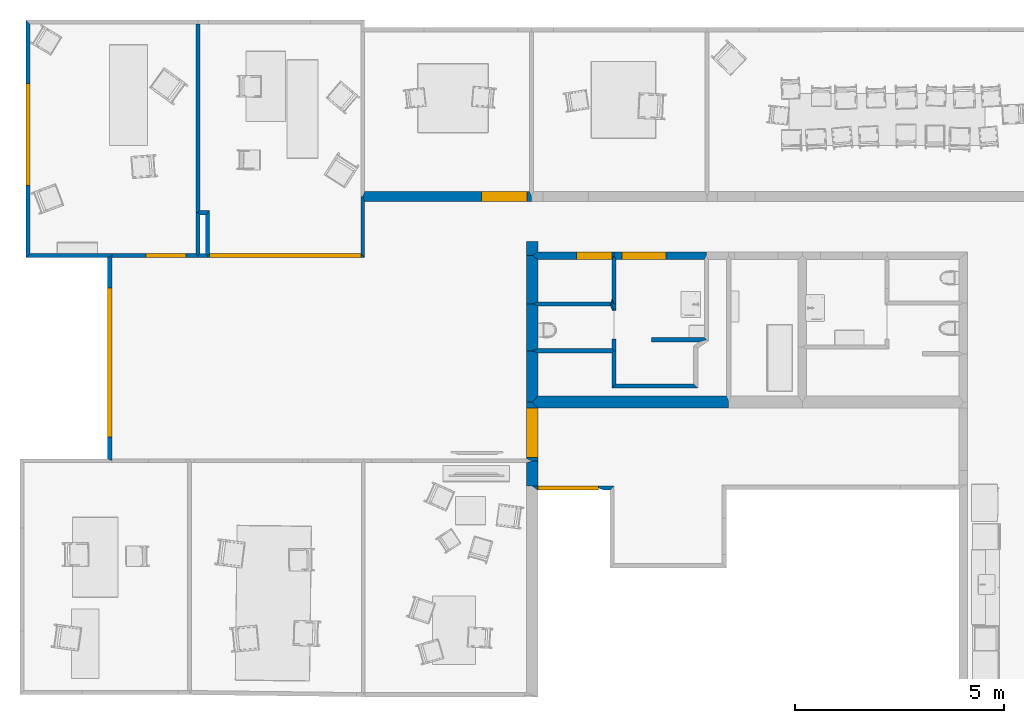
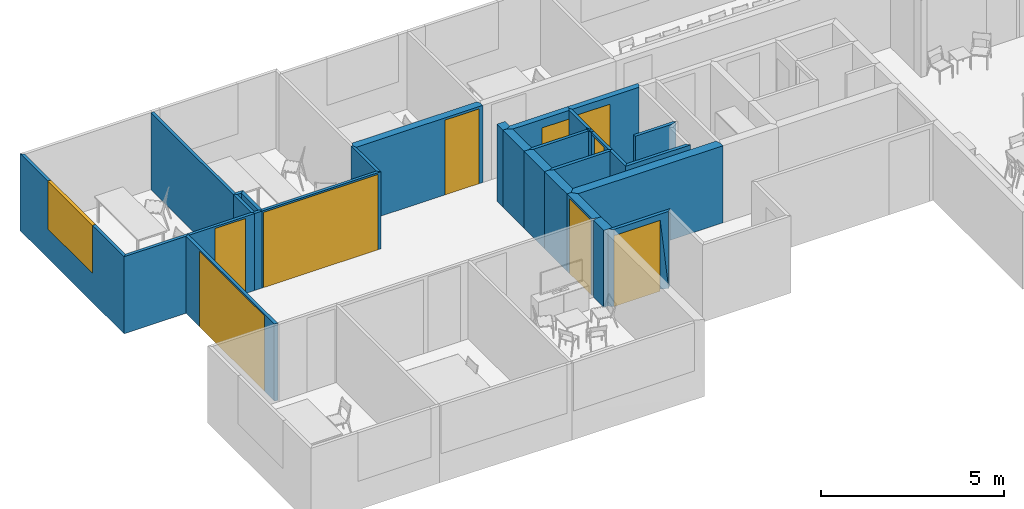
# One storey, part 2 of 25: 31 walls, 8 doors, 1 window, 10 openings.
"""IFC2X3 building model written with IfcOpenShell, lengths in metres."""

from ifc_helpers import new_model, si_unit, direction, frame, origin_with_axes, place, context, subcontext, project, spatial, polyline, outline, extrude, type_object, element, fill, save


model = new_model("IFC2X3")

# Units and contexts
model_context = context("Model", 3, precision=1e-05, world=origin_with_axes(), true_north=direction((0.996, -0.093, 0.0)))
body_context = subcontext(model_context, "Body", "Model", "MODEL_VIEW")
ifc_project = project(units=[si_unit("LENGTHUNIT", "METRE"), si_unit("AREAUNIT", "SQUARE_METRE")], contexts=[model_context])

# Site, building, storey
site_placement = place(None, origin_with_axes())
site = spatial("IfcSite", under=ifc_project, at=site_placement, Name="Site", CompositionType="ELEMENT")
building_placement = place(site_placement, origin_with_axes())
building = spatial("IfcBuilding", under=site, at=building_placement, Name="Building", CompositionType="ELEMENT")
storey_placement = place(building_placement, frame((0.0, 0.0, 0.0500001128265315), z_axis=(0.0, 0.0, 1.0), x_axis=(1.0, 0.0, 0.0)))
storey = spatial("IfcBuildingStorey", under=building, at=storey_placement, Name="Story 0", CompositionType="ELEMENT", Elevation=0.0499999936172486)

# Wall, opening, door
wall_type_1 = type_object("IfcWallType", PredefinedType="STANDARD")
wall_1_placement = place(storey_placement, frame((6.05727693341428, 7.0292834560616, 0.0), z_axis=(0.0, 0.0, 1.0), x_axis=(1.0, 0.0, 0.0)))
wall_1 = element("IfcWallStandardCase", 1, at=wall_1_placement, inside=storey, type_object=wall_type_1, Name="Wall", context=body_context, shape_type="SweptSolid", body=[
    extrude(outline(polyline([(0.0, 0.0), (-0.0463823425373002, 0.114025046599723), (-1.22583095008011e-05, 0.228050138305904), (3.94889842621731, 0.228052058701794), (3.99528078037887, 0.11402701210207), (3.99528083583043, 1.94294616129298e-06), (0.0, 0.0)])), origin_with_axes(), (0.0, 0.0, 1.0), 2.5729394),
])
opening_1_placement = place(wall_1_placement, frame((2.79951417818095, 0.0, 0.0), z_axis=(0.0, 0.0, 1.0), x_axis=(1.00000000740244, 0.0, 0.0)))
opening_1 = element("IfcOpeningElement", 2, at=opening_1_placement, cuts=wall_1, Name="OpeningElement", ObjectType="OPENING", context=body_context, shape_type="SweptSolid", body=[
    extrude(outline(polyline([(0.0, 0.0), (1.08285570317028, 0.0), (1.08285570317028, 2.49675690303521), (0.0, 2.49675690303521), (0.0, 0.0)])), frame((0.0, 0.0, 0.0), z_axis=(0.0, -1.0, 0.0), x_axis=(1.0, 0.0, 0.0)), (0.0, 0.0, -1.0), 0.228150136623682),
])
door_style_1 = type_object("IfcDoorStyle", Name="194cbcb8-2a0d-4996-9679-104e252f2d6b", ConstructionType="NOTDEFINED", OperationType="NOTDEFINED", ParameterTakesPrecedence=False, Sizeable=False)
door_1_placement = place(opening_1_placement, origin_with_axes())
door_1 = element("IfcDoor", 3, at=door_1_placement, inside=storey, type_object=door_style_1, Name="Door", OverallHeight=2.49675694, OverallWidth=1.0828566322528, context=body_context, shape_type="SweptSolid", body=[
    extrude(outline(polyline([(-1.77635683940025e-15, 0.0), (-1.08285564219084, 0.0), (-1.08285564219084, 2.49675694), (-1.77635683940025e-15, 2.49675694), (-1.77635683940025e-15, 0.0)])), frame((0.0, 0.228050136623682, 0.0), z_axis=(0.0, 1.0, 0.0), x_axis=(-1.0, 0.0, 0.0)), (0.0, 0.0, -1.0), 0.228050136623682),
])
fill(opening_1, door_1)

wall_type_2 = type_object("IfcWallType", PredefinedType="STANDARD")
wall_2_placement = place(storey_placement, frame((10.2028890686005, 5.6405609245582, 0.0), z_axis=(0.0, 0.0, 1.0), x_axis=(1.0, 0.0, 0.0)))
wall_2 = element("IfcWallStandardCase", 4, at=wall_2_placement, inside=storey, type_object=wall_type_2, Name="Wall", context=body_context, shape_type="SweptSolid", body=[
    extrude(outline(polyline([(0.0, 0.0), (-0.133709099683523, 0.0883233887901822), (-1.25883463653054e-08, 0.176646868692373), (1.82463396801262, 0.176647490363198), (1.82463399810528, 0.0883240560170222), (1.77825168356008, 6.0586792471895e-07), (0.0, 0.0)])), origin_with_axes(), (0.0, 0.0, 1.0), 2.5729394),
])
opening_2_placement = place(wall_2_placement, frame((1.77825162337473, 0.176647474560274, 0.0), z_axis=(0.0, 0.0, 1.0), x_axis=(-1.0000000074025, 0.0, 0.0)))
opening_2 = element("IfcOpeningElement", 5, at=opening_2_placement, cuts=wall_2, Name="OpeningElement", ObjectType="OPENING", context=body_context, shape_type="SweptSolid", body=[
    extrude(outline(polyline([(0.0, 0.0), (0.856390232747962, 0.0), (0.856390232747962, 2.28598296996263), (0.0, 2.28598296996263), (0.0, 0.0)])), frame((0.0, 0.0, 0.0), z_axis=(0.0, -1.0, 0.0), x_axis=(1.0, 0.0, 0.0)), (0.0, 0.0, -1.0), 0.176746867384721),
])
door_style_2 = type_object("IfcDoorStyle", Name="e3c5b70f-ecda-42f5-a927-86ac6ca27e60", ConstructionType="NOTDEFINED", OperationType="NOTDEFINED", ParameterTakesPrecedence=False, Sizeable=False)
door_2_placement = place(opening_2_placement, origin_with_axes())
door_2 = element("IfcDoor", 6, at=door_2_placement, inside=storey, type_object=door_style_2, Name="Door", OverallHeight=2.28598364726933, OverallWidth=0.902772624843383, context=body_context, shape_type="SweptSolid", body=[
    extrude(outline(polyline([(0.0, 0.0), (-0.856390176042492, 0.0), (-0.856390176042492, 2.28598300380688), (0.0, 2.28598300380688), (0.0, 0.0)])), frame((0.0, 0.176646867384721, 0.0), z_axis=(0.0, 1.0, 0.0), x_axis=(-1.0, 0.0, 0.0)), (0.0, 0.0, -1.0), 0.176646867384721),
])
fill(opening_2, door_2)

# Wall
wall_type_3 = type_object("IfcWallType", PredefinedType="STANDARD")
wall_3_placement = place(storey_placement, frame((9.93547154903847, 2.22077847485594, 0.0), z_axis=(0.0, 0.0, 1.0), x_axis=(1.0, 0.0, 0.0)))
element("IfcWallStandardCase", 7, at=wall_3_placement, inside=storey, type_object=wall_type_3, Name="Wall", context=body_context, shape_type="SweptSolid", body=[
    extrude(outline(polyline([(0.0, 0.0), (2.24664894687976e-07, 1.22817826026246), (0.133709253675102, 1.2281782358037), (0.267418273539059, 1.17817827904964), (0.267418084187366, 0.143047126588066), (0.133709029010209, -2.44587661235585e-08), (0.0, 0.0)])), origin_with_axes(), (0.0, 0.0, 1.0), 2.5729394),
])

# Wall, opening, door
wall_type_4 = type_object("IfcWallType", PredefinedType="STANDARD")
wall_4_placement = place(storey_placement, frame((9.93547231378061, 0.86197663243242, 0.0), z_axis=(0.0, 0.0, 1.0), x_axis=(1.0, 0.0, 0.0)))
wall_4 = element("IfcWallStandardCase", 8, at=wall_4_placement, inside=storey, type_object=wall_type_4, Name="Wall", context=body_context, shape_type="SweptSolid", body=[
    extrude(outline(polyline([(0.0, 0.0), (-7.64742114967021e-07, 1.35880174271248), (0.133708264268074, 1.35880181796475), (0.267417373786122, 1.21575469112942), (0.267418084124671, -0.0463822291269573), (0.13370905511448, -0.0463823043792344), (0.0, 0.0)])), origin_with_axes(), (0.0, 0.0, 1.0), 2.5729394),
])
opening_3_placement = place(wall_4_placement, frame((0.0, 1.21575454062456, 0.0), z_axis=(0.0, 0.0, 1.0), x_axis=(0.0, -1.0000000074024, 0.0)))
opening_3 = element("IfcOpeningElement", 9, at=opening_3_placement, cuts=wall_4, Name="OpeningElement", ObjectType="OPENING", context=body_context, shape_type="SweptSolid", body=[
    extrude(outline(polyline([(8.47388701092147e-17, 0.0), (1.17969466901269, 0.0), (1.17969466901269, 2.4905647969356), (8.47388701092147e-17, 2.4905647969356), (8.47388701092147e-17, 0.0)])), frame((0.0, 0.0, 0.0), z_axis=(0.0, -1.0, 0.0), x_axis=(1.0, 0.0, 0.0)), (0.0, 0.0, -1.0), 0.267518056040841),
])
door_style_3 = type_object("IfcDoorStyle", Name="84b4e0b7-d945-4fbe-b5bd-07ea1a3345e8", ConstructionType="NOTDEFINED", OperationType="NOTDEFINED", ParameterTakesPrecedence=False, Sizeable=False)
door_3_placement = place(opening_3_placement, origin_with_axes())
door_3 = element("IfcDoor", 10, at=door_3_placement, inside=storey, type_object=door_style_3, Name="Door", OverallHeight=2.49056467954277, OverallWidth=1.32274191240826, context=body_context, shape_type="SweptSolid", body=[
    extrude(outline(polyline([(1.05133729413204e-17, 0.0), (-1.17969470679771, 0.0), (-1.17969470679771, 2.49056483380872), (1.05133729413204e-17, 2.49056483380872), (1.05133729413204e-17, 0.0)])), frame((0.0, 0.267418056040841, 0.0), z_axis=(0.0, 1.0, 0.0), x_axis=(-1.0, 0.0, 0.0)), (0.0, 0.0, -1.0), 0.267418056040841),
])
fill(opening_3, door_3)

wall_type_5 = type_object("IfcWallType", PredefinedType="STANDARD")
wall_5_placement = place(storey_placement, frame((2.29671740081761, 5.6825010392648, 0.0), z_axis=(0.0, 0.0, 1.0), x_axis=(1.0, 0.0, 0.0)))
wall_5 = element("IfcWallStandardCase", 11, at=wall_5_placement, inside=storey, type_object=wall_type_5, Name="Wall", context=body_context, shape_type="SweptSolid", body=[
    extrude(outline(polyline([(0.0, 0.0), (-7.37930339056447e-09, 0.0463823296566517), (0.0499999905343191, 0.0927646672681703), (3.66779501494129, 0.0927652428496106), (3.7605596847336, 5.98294914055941e-07), (0.0, 0.0)])), origin_with_axes(), (0.0, 0.0, 1.0), 2.5729394),
])
opening_4_placement = place(wall_5_placement, frame((0.0500000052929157, 0.0, 0.0), z_axis=(0.0, 0.0, 1.0), x_axis=(1.00000000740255, 0.0, 0.0)))
opening_4 = element("IfcOpeningElement", 12, at=opening_4_placement, cuts=wall_5, Name="OpeningElement", ObjectType="OPENING", context=body_context, shape_type="SweptSolid", body=[
    extrude(outline(polyline([(-4.44089209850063e-16, 0.0), (3.6177944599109, 0.0), (3.6177944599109, 2.51467010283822), (-4.44089209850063e-16, 2.51467010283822), (-4.44089209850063e-16, 0.0)])), frame((0.0, 0.0, 0.0), z_axis=(0.0, -1.0, 0.0), x_axis=(1.0, 0.0, 0.0)), (0.0, 0.0, -1.0), 0.0928646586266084),
])
door_style_4 = type_object("IfcDoorStyle", Name="def7d527-a4ef-49cd-94be-40c4f40b6462", ConstructionType="NOTDEFINED", OperationType="NOTDEFINED", ParameterTakesPrecedence=False, Sizeable=False)
door_4_placement = place(opening_4_placement, origin_with_axes())
door_4 = element("IfcDoor", 13, at=door_4_placement, inside=storey, type_object=door_style_4, Name="Door", OverallHeight=2.51467089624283, OverallWidth=3.69538188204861, context=body_context, shape_type="SweptSolid", body=[
    extrude(outline(polyline([(4.44089209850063e-16, 0.0), (-3.61779419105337, 0.0), (-3.61779419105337, 2.51467014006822), (4.44089209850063e-16, 2.51467014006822), (4.44089209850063e-16, 0.0)])), frame((0.0, 0.0927646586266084, 0.0), z_axis=(0.0, 1.0, 0.0), x_axis=(-1.0, 0.0, 0.0)), (0.0, 0.0, -1.0), 0.0927646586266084),
])
fill(opening_4, door_4)

wall_type_6 = type_object("IfcWallType", PredefinedType="STANDARD")
wall_6_placement = place(storey_placement, frame((-0.095288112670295, 5.68250054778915, 0.0), z_axis=(0.0, 0.0, 1.0), x_axis=(1.0, 0.0, 0.0)))
wall_6 = element("IfcWallStandardCase", 14, at=wall_6_placement, inside=storey, type_object=wall_type_6, Name="Wall", context=body_context, shape_type="SweptSolid", body=[
    extrude(outline(polyline([(0.0, 0.0), (0.0999999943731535, 0.0463823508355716), (0.0999999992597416, 2.11789190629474e-08), (0.100000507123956, -4.82052585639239), (0.100000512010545, -4.86690818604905), (5.07864214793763e-07, -4.82052588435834), (0.0, 0.0)])), origin_with_axes(), (0.0, 0.0, 1.0), 2.5729394),
])
opening_5_placement = place(wall_6_placement, frame((0.100000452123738, -4.29847691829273, 0.0), z_axis=(0.0, 0.0, 1.0), x_axis=(0.0, 1.00000000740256, 0.0)))
opening_5 = element("IfcOpeningElement", 15, at=opening_5_placement, cuts=wall_6, Name="OpeningElement", ObjectType="OPENING", context=body_context, shape_type="SweptSolid", body=[
    extrude(outline(polyline([(-2.30182344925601e-17, 0.0), (3.56464451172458, 0.0), (3.56464451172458, 2.51561018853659), (-2.30182344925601e-17, 2.51561018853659), (-2.30182344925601e-17, 0.0)])), frame((0.0, 0.0, 0.0), z_axis=(0.0, -1.0, 0.0), x_axis=(1.0, 0.0, 0.0)), (0.0, 0.0, -1.0), 0.100099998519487),
])
door_style_5 = type_object("IfcDoorStyle", Name="2be84ae6-4ffa-4159-9f80-c79d7210fa71", ConstructionType="NOTDEFINED", OperationType="NOTDEFINED", ParameterTakesPrecedence=False, Sizeable=False)
door_5_placement = place(opening_5_placement, origin_with_axes())
door_5 = element("IfcDoor", 16, at=door_5_placement, inside=storey, type_object=door_style_5, Name="Door", OverallHeight=2.51561022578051, OverallWidth=3.56464607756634, context=body_context, shape_type="SweptSolid", body=[
    extrude(outline(polyline([(-5.89785216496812e-17, 0.0), (-3.56464423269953, 0.0), (-3.56464423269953, 2.51561022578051), (-5.89785216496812e-17, 2.51561022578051), (-5.89785216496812e-17, 0.0)])), frame((0.0, 0.0999999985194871, 0.0), z_axis=(0.0, 1.0, 0.0), x_axis=(-1.0, 0.0, 0.0)), (0.0, 0.0, -1.0), 0.0999999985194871),
])
fill(opening_5, door_5)

# Wall
wall_type_7 = type_object("IfcWallType", PredefinedType="STANDARD")
wall_7_placement = place(storey_placement, frame((9.93547186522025, 4.57248068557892, 0.0), z_axis=(0.0, 0.0, 1.0), x_axis=(1.0, 0.0, 0.0)))
element("IfcWallStandardCase", 17, at=wall_7_placement, inside=storey, type_object=wall_type_7, Name="Wall", context=body_context, shape_type="SweptSolid", body=[
    extrude(outline(polyline([(0.0, 0.0), (-9.25313425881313e-07, 1.15640352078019), (0.133708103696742, 1.15640362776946), (0.267417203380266, 1.06808023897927), (0.267418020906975, 0.0463823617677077), (0.133709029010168, 1.06989263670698e-07), (0.0, 0.0)])), origin_with_axes(), (0.0, 0.0, 1.0), 2.5729394),
])

# Wall, opening, door
wall_type_8 = type_object("IfcWallType", PredefinedType="STANDARD")
wall_8_placement = place(storey_placement, frame((0.00471188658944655, 5.68250056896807, 0.0), z_axis=(0.0, 0.0, 1.0), x_axis=(1.0, 0.0, 0.0)))
wall_8 = element("IfcWallStandardCase", 18, at=wall_8_placement, inside=storey, type_object=wall_type_8, Name="Wall", context=body_context, shape_type="SweptSolid", body=[
    extrude(outline(polyline([(0.0, 0.0), (-4.88658802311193e-09, 0.0463823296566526), (-4.60571125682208e-09, 0.0927646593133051), (2.01292483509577, 0.0927646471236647), (2.05930716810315, 0.0463823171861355), (2.05930716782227, -1.24705161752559e-08), (0.0, 0.0)])), origin_with_axes(), (0.0, 0.0, 1.0), 2.5729394),
])
opening_6_placement = place(wall_8_placement, frame((0.816121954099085, 0.0, 0.0), z_axis=(0.0, 0.0, 1.0), x_axis=(1.00000000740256, 0.0, 0.0)))
opening_6 = element("IfcOpeningElement", 19, at=opening_6_placement, cuts=wall_8, Name="OpeningElement", ObjectType="OPENING", context=body_context, shape_type="SweptSolid", body=[
    extrude(outline(polyline([(-1.11022302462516e-16, 0.0), (0.955002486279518, 0.0), (0.955002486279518, 2.50740356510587), (-1.11022302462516e-16, 2.50740356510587), (-1.11022302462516e-16, 0.0)])), frame((0.0, 0.0, 0.0), z_axis=(0.0, -1.0, 0.0), x_axis=(1.0, 0.0, 0.0)), (0.0, 0.0, -1.0), 0.092864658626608),
])
door_style_6 = type_object("IfcDoorStyle", Name="aa1928c1-797f-4547-a4ae-2990679286e1", ConstructionType="NOTDEFINED", OperationType="NOTDEFINED", ParameterTakesPrecedence=False, Sizeable=False)
door_6_placement = place(opening_6_placement, origin_with_axes())
door_6 = element("IfcDoor", 20, at=door_6_placement, inside=storey, type_object=door_style_6, Name="Door", OverallHeight=2.50740435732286, OverallWidth=0.955002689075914, context=body_context, shape_type="SweptSolid", body=[
    extrude(outline(polyline([(0.0, 0.0), (-0.955002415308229, 0.0), (-0.955002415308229, 2.50740360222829), (0.0, 2.50740360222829), (0.0, 0.0)])), frame((0.0, 0.092764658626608, 0.0), z_axis=(0.0, 1.0, 0.0), x_axis=(-1.0, 0.0, 0.0)), (0.0, 0.0, -1.0), 0.092764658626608),
])
fill(opening_6, door_6)

# Walls
wall_type_9 = type_object("IfcWallType", PredefinedType="STANDARD")
wall_9_placement = place(storey_placement, frame((2.06401915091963, 5.68250055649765, 0.0), z_axis=(0.0, 0.0, 1.0), x_axis=(1.0, 0.0, 0.0)))
element("IfcWallStandardCase", 21, at=wall_9_placement, inside=storey, type_object=wall_type_9, Name="Wall", context=body_context, shape_type="SweptSolid", body=[
    extrude(outline(polyline([(0.0, 0.0), (-9.62270281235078e-08, 0.0463823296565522), (0.0463822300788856, 0.0927647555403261), (0.182698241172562, 0.0927650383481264), (0.232698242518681, 0.0463828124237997), (0.232698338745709, 4.82767247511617e-07), (0.0, 0.0)])), origin_with_axes(), (0.0, 0.0, 1.0), 2.5729394),
])
wall_type_10 = type_object("IfcWallType", PredefinedType="STANDARD")
wall_10_placement = place(storey_placement, frame((9.93547093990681, 5.72888440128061, 0.0), z_axis=(0.0, 0.0, 1.0), x_axis=(1.0, 0.0, 0.0)))
element("IfcWallStandardCase", 22, at=wall_10_placement, inside=storey, type_object=wall_type_10, Name="Wall", context=body_context, shape_type="SweptSolid", body=[
    extrude(outline(polyline([(0.0, 0.0), (2.18148651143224e-07, 0.33171505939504), (0.267418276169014, 0.331714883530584), (0.267418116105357, 0.0883233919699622), (0.133709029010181, -8.79322286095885e-08), (0.0, 0.0)])), origin_with_axes(), (0.0, 0.0, 1.0), 2.5729394),
])
wall_type_11 = type_object("IfcWallType", PredefinedType="STANDARD")
wall_11_placement = place(storey_placement, frame((5.96451226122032, 7.14330849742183, 0.0), z_axis=(0.0, 0.0, 1.0), x_axis=(1.0, 0.0, 0.0)))
element("IfcWallStandardCase", 23, at=wall_11_placement, inside=storey, type_object=wall_type_11, Name="Wall", context=body_context, shape_type="SweptSolid", body=[
    extrude(outline(polyline([(0.0, 0.0), (0.0463823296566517, 5.23950216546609e-09), (0.0927646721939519, -0.114025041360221), (0.0927648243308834, -1.46080685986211), (1.54538575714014e-07, -1.36804221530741), (0.0, 0.0)])), origin_with_axes(), (0.0, 0.0, 1.0), 2.5729394),
])
wall_type_12 = type_object("IfcWallType", PredefinedType="STANDARD")
wall_12_placement = place(storey_placement, frame((9.93547177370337, 3.44895672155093, 0.0), z_axis=(0.0, 0.0, 1.0), x_axis=(1.0, 0.0, 0.0)))
element("IfcWallStandardCase", 24, at=wall_12_placement, inside=storey, type_object=wall_type_12, Name="Wall", context=body_context, shape_type="SweptSolid", body=[
    extrude(outline(polyline([(0.0, 0.0), (9.15168385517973e-08, 1.12352408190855), (0.133709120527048, 1.12352407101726), (0.267418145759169, 1.07714166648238), (0.267418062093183, 0.0500000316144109), (0.133709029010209, -1.0891290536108e-08), (0.0, 0.0)])), origin_with_axes(), (0.0, 0.0, 1.0), 2.5729394),
])

# Wall, opening, door
wall_type_13 = type_object("IfcWallType", PredefinedType="STANDARD")
wall_13_placement = place(storey_placement, frame((12.0739054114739, 5.64056155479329, 0.0), z_axis=(0.0, 0.0, 1.0), x_axis=(1.0, 0.0, 0.0)))
wall_13 = element("IfcWallStandardCase", 25, at=wall_13_placement, inside=storey, type_object=wall_type_13, Name="Wall", context=body_context, shape_type="SweptSolid", body=[
    extrude(outline(polyline([(0.0, 0.0), (-0.046382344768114, 0.0883234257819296), (-0.046382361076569, 0.176646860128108), (2.16509380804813, 0.176647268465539), (2.16509382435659, 0.0883238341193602), (2.11509386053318, 3.90540941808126e-07), (0.0, 0.0)])), origin_with_axes(), (0.0, 0.0, 1.0), 2.5729394),
])
opening_7_placement = place(wall_13_placement, frame((1.20209447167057, 0.17664709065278, 0.0), z_axis=(0.0, 0.0, 1.0), x_axis=(-1.00000000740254, 0.0, 0.0)))
opening_7 = element("IfcOpeningElement", 26, at=opening_7_placement, cuts=wall_13, Name="OpeningElement", ObjectType="OPENING", context=body_context, shape_type="SweptSolid", body=[
    extrude(outline(polyline([(0.0, 0.0), (1.05191887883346, 0.0), (1.05191887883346, 2.32814514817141), (0.0, 2.32814514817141), (0.0, 0.0)])), frame((0.0, 0.0, 0.0), z_axis=(0.0, -1.0, 0.0), x_axis=(1.0, 0.0, 0.0)), (0.0, 0.0, -1.0), 0.176746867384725),
])
door_style_7 = type_object("IfcDoorStyle", Name="6be6b98e-0727-407e-8c54-e811bb305e01", ConstructionType="NOTDEFINED", OperationType="NOTDEFINED", ParameterTakesPrecedence=False, Sizeable=False)
door_7_placement = place(opening_7_placement, origin_with_axes())
door_7 = element("IfcDoor", 27, at=door_7_placement, inside=storey, type_object=door_style_7, Name="Door", OverallHeight=2.32814583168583, OverallWidth=1.05191907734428, context=body_context, shape_type="SweptSolid", body=[
    extrude(outline(polyline([(0.0, 0.0), (-1.05191880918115, 0.0), (-1.05191880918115, 2.32814518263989), (0.0, 2.32814518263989), (0.0, 0.0)])), frame((0.0, 0.176646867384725, 0.0), z_axis=(0.0, 1.0, 0.0), x_axis=(-1.0, 0.0, 0.0)), (0.0, 0.0, -1.0), 0.176646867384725),
])
fill(opening_7, door_7)

# Walls
wall_type_14 = type_object("IfcWallType", PredefinedType="STANDARD")
wall_14_placement = place(storey_placement, frame((11.9811408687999, 4.5260973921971, 0.0), z_axis=(0.0, 0.0, 1.0), x_axis=(1.0, 0.0, 0.0)))
element("IfcWallStandardCase", 28, at=wall_14_placement, inside=storey, type_object=wall_type_14, Name="Wall", context=body_context, shape_type="SweptSolid", body=[
    extrude(outline(polyline([(0.0, 0.0), (2.4455681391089e-07, 0.171602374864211), (0.0463823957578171, 0.04638230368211), (0.0927647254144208, 0.0463822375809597), (0.092764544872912, -0.0803014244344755), (0.0463822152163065, -0.0803013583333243), (0.0, 0.0)])), origin_with_axes(), (0.0, 0.0, 1.0), 2.5729394),
])
wall_type_15 = type_object("IfcWallType", PredefinedType="STANDARD")
wall_15_placement = place(storey_placement, frame((11.9811407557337, 4.42712188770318, 0.0), z_axis=(0.0, 0.0, 1.0), x_axis=(1.0, 0.0, 0.0)))
element("IfcWallStandardCase", 29, at=wall_15_placement, inside=storey, type_object=wall_type_15, Name="Wall", context=body_context, shape_type="SweptSolid", body=[
    extrude(outline(polyline([(0.0, 0.0), (-0.044263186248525, 0.111287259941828), (3.57623010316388e-07, 0.270577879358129), (0.0486567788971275, 0.148245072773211), (0.0463823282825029, 0.0186741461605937), (0.0, 0.0)])), origin_with_axes(), (0.0, 0.0, 1.0), 2.5729394),
])
wall_type_16 = type_object("IfcWallType", PredefinedType="STANDARD")
wall_16_placement = place(storey_placement, frame((10.2028899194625, 4.5260983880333, 0.0), z_axis=(0.0, 0.0, 1.0), x_axis=(1.0, 0.0, 0.0)))
element("IfcWallStandardCase", 30, at=wall_16_placement, inside=storey, type_object=wall_type_16, Name="Wall", context=body_context, shape_type="SweptSolid", body=[
    extrude(outline(polyline([(0.0, 0.0), (-0.133709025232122, 0.046382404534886), (-3.33353149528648e-08, 0.09276465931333), (1.77825100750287, 0.092763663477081), (1.82463334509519, 0.0463813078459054), (1.77825094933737, -9.95836204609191e-07), (0.0, 0.0)])), origin_with_axes(), (0.0, 0.0, 1.0), 2.5729394),
])
wall_type_17 = type_object("IfcWallType", PredefinedType="STANDARD")
wall_17_placement = place(storey_placement, frame((10.2028898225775, 3.39895675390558, 0.0), z_axis=(0.0, 0.0, 1.0), x_axis=(1.0, 0.0, 0.0)))
element("IfcWallStandardCase", 31, at=wall_17_placement, inside=storey, type_object=wall_type_17, Name="Wall", context=body_context, shape_type="SweptSolid", body=[
    extrude(outline(polyline([(0.0, 0.0), (-0.133709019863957, 0.049999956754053), (1.32190169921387e-08, 0.0999999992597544), (1.77825100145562, 0.100000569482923), (1.82463333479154, 0.0500005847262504), (1.77825102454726, 5.70223186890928e-07), (0.0, 0.0)])), origin_with_axes(), (0.0, 0.0, 1.0), 2.5729394),
])

# Wall, opening
wall_type_18 = type_object("IfcWallType", PredefinedType="STANDARD")
wall_18_placement = place(storey_placement, frame((11.9811408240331, 3.4989573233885, 0.0), z_axis=(0.0, 0.0, 1.0), x_axis=(1.0, 0.0, 0.0)))
wall_18 = element("IfcWallStandardCase", 32, at=wall_18_placement, inside=storey, type_object=wall_type_18, Name="Wall", context=body_context, shape_type="SweptSolid", body=[
    extrude(outline(polyline([(0.0, 0.0), (-6.82994372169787e-08, 0.928164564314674), (0.0463822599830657, 0.946838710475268), (0.0927645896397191, 0.946838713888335), (0.0927646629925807, -0.0499999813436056), (0.046382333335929, -0.0499999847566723), (0.0, 0.0)])), origin_with_axes(), (0.0, 0.0, 1.0), 2.5729394),
])
opening_8_placement = place(wall_18_placement, frame((0.0927646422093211, 0.232436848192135, 0.0), z_axis=(0.0, 0.0, 1.0), x_axis=(0.0, 1.00000000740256, 0.0)))
element("IfcOpeningElement", 33, at=opening_8_placement, cuts=wall_18, Name="OpeningElement", ObjectType="OPENING", context=body_context, shape_type="SweptSolid", body=[
    extrude(outline(polyline([(9.51162942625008e-17, 0.0), (0.685867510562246, 0.0), (0.685867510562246, 2.49261293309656), (9.51162942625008e-17, 2.49261293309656), (9.51162942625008e-17, 0.0)])), frame((0.0, 0.0, 0.0), z_axis=(0.0, -1.0, 0.0), x_axis=(1.0, 0.0, 0.0)), (0.0, 0.0, -1.0), 0.0928646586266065),
])

# Walls
wall_type_19 = type_object("IfcWallType", PredefinedType="STANDARD")
wall_19_placement = place(storey_placement, frame((11.9811409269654, 4.61886205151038, 0.0), z_axis=(0.0, 0.0, 1.0), x_axis=(1.0, 0.0, 0.0)))
element("IfcWallStandardCase", 34, at=wall_19_placement, inside=storey, type_object=wall_type_19, Name="Wall", context=body_context, shape_type="SweptSolid", body=[
    extrude(outline(polyline([(0.0, 0.0), (-1.74804821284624e-07, 1.02169947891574), (0.0463821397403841, 1.11002292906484), (0.0927644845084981, 1.02169950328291), (0.0927646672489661, -0.0463823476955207), (0.0463823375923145, -0.0463823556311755), (0.0, 0.0)])), origin_with_axes(), (0.0, 0.0, 1.0), 2.5729394),
])
wall_type_20 = type_object("IfcWallType", PredefinedType="STANDARD")
wall_20_placement = place(storey_placement, frame((2.11040131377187, 6.70584660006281, 0.0), z_axis=(0.0, 0.0, 1.0), x_axis=(1.0, 0.0, 0.0)))
element("IfcWallStandardCase", 35, at=wall_20_placement, inside=storey, type_object=wall_type_20, Name="Wall", context=body_context, shape_type="SweptSolid", body=[
    extrude(outline(polyline([(0.0, 0.0), (-0.0463823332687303, 0.0500000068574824), (-6.64450983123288e-09, 0.0999999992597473), (0.236316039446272, 0.099999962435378), (0.136316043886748, -2.12416901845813e-08), (0.0, 0.0)])), origin_with_axes(), (0.0, 0.0, 1.0), 2.5729394),
])
wall_type_21 = type_object("IfcWallType", PredefinedType="STANDARD")
wall_21_placement = place(storey_placement, frame((2.24671739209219, 5.77526559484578, 0.0), z_axis=(0.0, 0.0, 1.0), x_axis=(1.0, 0.0, 0.0)))
element("IfcWallStandardCase", 36, at=wall_21_placement, inside=storey, type_object=wall_type_21, Name="Wall", context=body_context, shape_type="SweptSolid", body=[
    extrude(outline(polyline([(0.0, 0.0), (-3.44335679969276e-08, 0.930580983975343), (0.0999999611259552, 1.03058096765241), (0.0999999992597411, 1.11687191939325e-07), (0.0500000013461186, -0.0463822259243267), (0.0, 0.0)])), origin_with_axes(), (0.0, 0.0, 1.0), 2.5729394),
])
wall_type_22 = type_object("IfcWallType", PredefinedType="STANDARD")
wall_22_placement = place(storey_placement, frame((2.01763637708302, 11.2697735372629, 0.0), z_axis=(0.0, 0.0, 1.0), x_axis=(1.0, 0.0, 0.0)))
element("IfcWallStandardCase", 37, at=wall_22_placement, inside=storey, type_object=wall_type_22, Name="Wall", context=body_context, shape_type="SweptSolid", body=[
    extrude(outline(polyline([(0.0, 0.0), (0.0463823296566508, 9.54272394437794e-09), (0.0927646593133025, 1.823529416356e-08), (0.0927649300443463, -4.46392693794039), (0.0463826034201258, -4.51392693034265), (2.73763473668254e-07, -4.51392693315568), (0.0, 0.0)])), origin_with_axes(), (0.0, 0.0, 1.0), 2.5729394),
])
wall_type_23 = type_object("IfcWallType", PredefinedType="STANDARD")
wall_23_placement = place(storey_placement, frame((11.9811411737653, 2.55763641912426, 0.0), z_axis=(0.0, 0.0, 1.0), x_axis=(1.0, 0.0, 0.0)))
element("IfcWallStandardCase", 38, at=wall_23_placement, inside=storey, type_object=wall_type_23, Name="Wall", context=body_context, shape_type="SweptSolid", body=[
    extrude(outline(polyline([(0.0, 0.0), (0.0927646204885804, 0.100000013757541), (1.95548213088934, 0.100000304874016), (2.05548203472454, 3.21242842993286e-07), (0.0, 0.0)])), origin_with_axes(), (0.0, 0.0, 1.0), 2.5729394),
])
wall_type_24 = type_object("IfcWallType", PredefinedType="STANDARD")
wall_24_placement = place(storey_placement, frame((12.9254825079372, 3.66412184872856, 0.0), z_axis=(0.0, 0.0, 1.0), x_axis=(1.0, 0.0, 0.0)))
element("IfcWallStandardCase", 39, at=wall_24_placement, inside=storey, type_object=wall_type_24, Name="Wall", context=body_context, shape_type="SweptSolid", body=[
    extrude(outline(polyline([(0.0, 0.0), (-1.5956830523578e-08, 0.0999999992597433), (1.26351752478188, 0.100000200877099), (1.31351754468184, 0.0500002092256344), (1.1519819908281, 1.83819817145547e-07), (0.0, 0.0)])), origin_with_axes(), (0.0, 0.0, 1.0), 2.5729394),
])
wall_type_25 = type_object("IfcWallType", PredefinedType="STANDARD")
wall_25_placement = place(storey_placement, frame((11.9811408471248, 3.39895732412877, 0.0), z_axis=(0.0, 0.0, 1.0), x_axis=(1.0, 0.0, 0.0)))
element("IfcWallStandardCase", 40, at=wall_25_placement, inside=storey, type_object=wall_type_25, Name="Wall", context=body_context, shape_type="SweptSolid", body=[
    extrude(outline(polyline([(0.0, 0.0), (0.0463823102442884, 0.0500000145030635), (0.0927646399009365, 0.0500000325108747), (0.0927649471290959, -0.74132089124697), (3.26640515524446e-07, -0.84132090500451), (0.0, 0.0)])), origin_with_axes(), (0.0, 0.0, 1.0), 2.5729394),
])
wall_type_26 = type_object("IfcWallType", PredefinedType="STANDARD")
wall_26_placement = place(storey_placement, frame((10.2028896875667, 2.07773132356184, 0.0), z_axis=(0.0, 0.0, 1.0), x_axis=(1.0, 0.0, 0.0)))
element("IfcWallStandardCase", 41, at=wall_26_placement, inside=storey, type_object=wall_type_26, Name="Wall", context=body_context, shape_type="SweptSolid", body=[
    extrude(outline(polyline([(0.0, 0.0), (-0.133709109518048, 0.143047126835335), (-5.43408908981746e-08, 0.286094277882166), (4.52259833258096, 0.286094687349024), (4.57259835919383, 0.143047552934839), (4.57259837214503, 4.13993754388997e-07), (0.0, 0.0)])), origin_with_axes(), (0.0, 0.0, 1.0), 2.5729394),
])
wall_type_27 = type_object("IfcWallType", PredefinedType="STANDARD")
wall_27_placement = place(storey_placement, frame((-2.05416653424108, 5.68250013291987, 0.0), z_axis=(0.0, 0.0, 1.0), x_axis=(1.0, 0.0, 0.0)))
element("IfcWallStandardCase", 42, at=wall_27_placement, inside=storey, type_object=wall_type_27, Name="Wall", context=body_context, shape_type="SweptSolid", body=[
    extrude(outline(polyline([(0.0, 0.0), (0.0999999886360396, 0.0927646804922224), (2.05887840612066, 0.0927650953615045), (2.05887841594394, 0.0463827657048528), (1.95887842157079, 4.14869281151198e-07), (0.0, 0.0)])), origin_with_axes(), (0.0, 0.0, 1.0), 2.5729394),
])
wall_type_28 = type_object("IfcWallType", PredefinedType="STANDARD")
wall_28_placement = place(storey_placement, frame((2.01763672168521, 5.77526521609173, 0.0), z_axis=(0.0, 0.0, 1.0), x_axis=(1.0, 0.0, 0.0)))
element("IfcWallStandardCase", 43, at=wall_28_placement, inside=storey, type_object=wall_type_28, Name="Wall", context=body_context, shape_type="SweptSolid", body=[
    extrude(outline(polyline([(0.0, 0.0), (-7.08387246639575e-08, 0.980581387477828), (0.0463822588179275, 0.980581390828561), (0.0927645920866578, 0.930581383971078), (0.0927646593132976, 9.59462447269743e-08), (0.0463823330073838, -0.0463823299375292), (0.0, 0.0)])), origin_with_axes(), (0.0, 0.0, 1.0), 2.5729394),
])

# Wall, opening, window
wall_type_29 = type_object("IfcWallType", PredefinedType="STANDARD")
wall_29_placement = place(storey_placement, frame((-2.05416718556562, 11.3697726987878, 0.0), z_axis=(0.0, 0.0, 1.0), x_axis=(1.0, 0.0, 0.0)))
wall_29 = element("IfcWallStandardCase", 44, at=wall_29_placement, inside=storey, type_object=wall_type_29, Name="Wall", context=body_context, shape_type="SweptSolid", body=[
    extrude(outline(polyline([(0.0, 0.0), (0.100000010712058, -0.0999999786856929), (0.100000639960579, -5.5945078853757), (6.51324539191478e-07, -5.68727256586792), (0.0, 0.0)])), origin_with_axes(), (0.0, 0.0, 1.0), 2.5729394),
])
opening_9_placement = place(wall_29_placement, frame((0.100000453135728, -3.96318008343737, 0.977030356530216), z_axis=(0.0, 0.0, 1.0), x_axis=(0.0, 1.00000000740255, 0.0)))
opening_9 = element("IfcOpeningElement", 45, at=opening_9_placement, cuts=wall_29, Name="OpeningElement", ObjectType="OPENING", context=body_context, shape_type="SweptSolid", body=[
    extrude(outline(polyline([(2.24347025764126e-16, 0.0), (2.44464247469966, 0.0), (2.44464247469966, 1.59590888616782), (2.24347025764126e-16, 1.59590888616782), (2.24347025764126e-16, 0.0)])), frame((0.0, 0.0, 0.0), z_axis=(0.0, -1.0, 0.0), x_axis=(1.0, 0.0, 0.0)), (0.0, 0.0, -1.0), 0.100099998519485),
])
window_style = type_object("IfcWindowStyle", Name="9c699845-31b7-4926-ab55-14facba961c3", ConstructionType="ALUMINIUM", OperationType="SINGLE_PANEL", ParameterTakesPrecedence=True, Sizeable=True)
window_placement = place(opening_9_placement, origin_with_axes())
window = element("IfcWindow", 46, at=window_placement, inside=storey, type_object=window_style, Name="Window", OverallHeight=1.5, OverallWidth=0.5, context=body_context, shape_type="SweptSolid", body=[
    extrude(outline(polyline([(-8.27399252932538e-17, 0.0), (-2.4446425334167, 0.0), (-2.4446425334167, 1.59590890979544), (-8.27399252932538e-17, 1.59590890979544), (-8.27399252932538e-17, 0.0)])), frame((0.0, 0.0999999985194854, 0.0), z_axis=(0.0, 1.0, 0.0), x_axis=(-1.0, 0.0, 0.0)), (0.0, 0.0, -1.0), 0.0999999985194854),
])
fill(opening_9, window)

# Wall, opening, door
wall_type_30 = type_object("IfcWallType", PredefinedType="STANDARD")
wall_30_placement = place(storey_placement, frame((10.2028904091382, 0.110005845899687, 0.0), z_axis=(0.0, 0.0, 1.0), x_axis=(1.0, 0.0, 0.0)))
wall_30 = element("IfcWallStandardCase", 47, at=wall_30_placement, inside=storey, type_object=wall_type_30, Name="Wall", context=body_context, shape_type="SweptSolid", body=[
    extrude(outline(polyline([(0.0, 0.0), (-0.133709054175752, 0.0999999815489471), (-2.5165540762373e-08, 0.0999999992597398), (1.82548363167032, 0.100000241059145), (1.72548365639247, 2.28553631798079e-07), (0.0, 0.0)])), origin_with_axes(), (0.0, 0.0, 1.0), 2.5729394),
])
opening_10_placement = place(wall_30_placement, frame((1.45952072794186, 0.100000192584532, 0.0), z_axis=(0.0, 0.0, 1.0), x_axis=(-1.00000000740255, 0.0, 0.0)))
opening_10 = element("IfcOpeningElement", 48, at=opening_10_placement, cuts=wall_30, Name="OpeningElement", ObjectType="OPENING", context=body_context, shape_type="SweptSolid", body=[
    extrude(outline(polyline([(-1.77635683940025e-15, 0.0), (1.45952088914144, 0.0), (1.45952088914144, 2.36662462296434), (-1.77635683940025e-15, 2.36662462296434), (-1.77635683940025e-15, 0.0)])), frame((0.0, 0.0, 0.0), z_axis=(0.0, -1.0, 0.0), x_axis=(1.0, 0.0, 0.0)), (0.0, 0.0, -1.0), 0.100099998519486),
])
door_style_8 = type_object("IfcDoorStyle", Name="9cdb1558-488f-4c54-8157-87d89df451c0", ConstructionType="NOTDEFINED", OperationType="NOTDEFINED", ParameterTakesPrecedence=False, Sizeable=False)
door_8_placement = place(opening_10_placement, origin_with_axes())
door_8 = element("IfcDoor", 49, at=door_8_placement, inside=storey, type_object=door_style_8, Name="Door", OverallHeight=2.36662465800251, OverallWidth=1.51862431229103, context=body_context, shape_type="SweptSolid", body=[
    extrude(outline(polyline([(0.0, 0.0), (-1.4595209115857, 0.0), (-1.4595209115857, 2.36662465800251), (0.0, 2.36662465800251), (0.0, 0.0)])), frame((0.0, 0.0999999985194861, 0.0), z_axis=(0.0, 1.0, 0.0), x_axis=(-1.0, 0.0, 0.0)), (0.0, 0.0, -1.0), 0.0999999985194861),
])
fill(opening_10, door_8)

# Wall
wall_type_31 = type_object("IfcWallType", PredefinedType="STANDARD")
wall_31_placement = place(storey_placement, frame((9.93547232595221, 0.210005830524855, 0.0), z_axis=(0.0, 0.0, 1.0), x_axis=(1.0, 0.0, 0.0)))
element("IfcWallStandardCase", 50, at=wall_31_placement, inside=storey, type_object=wall_type_31, Name="Wall", context=body_context, shape_type="SweptSolid", body=[
    extrude(outline(polyline([(0.0, 0.0), (1.28655628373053e-08, 0.559206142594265), (0.133709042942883, 0.60558849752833), (0.267418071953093, 0.605588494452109), (0.267418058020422, 1.46345714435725e-08), (0.133709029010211, -3.07622127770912e-09), (0.0, 0.0)])), origin_with_axes(), (0.0, 0.0, 1.0), 2.5729394),
])

save(model, "model.ifc")
